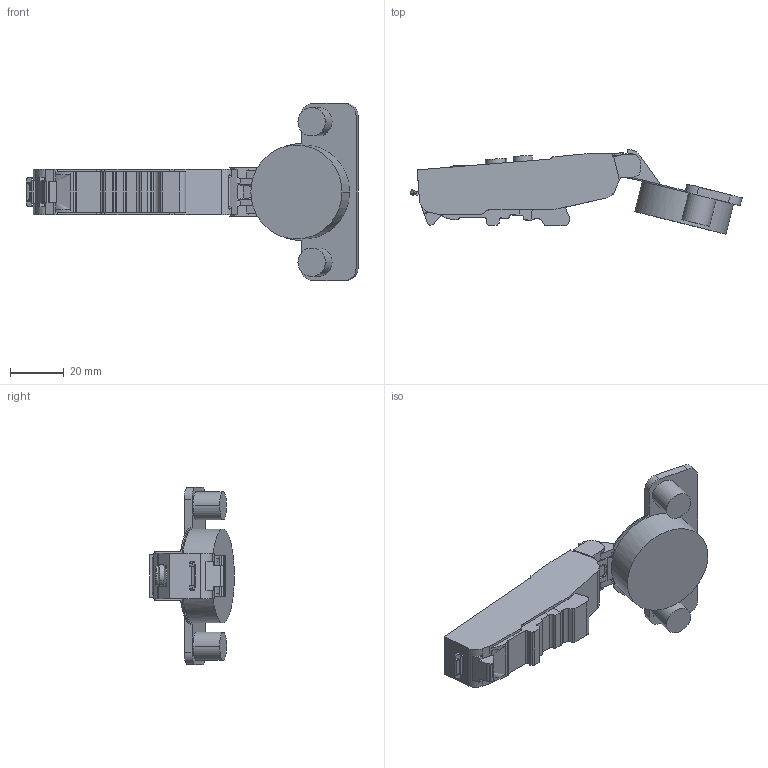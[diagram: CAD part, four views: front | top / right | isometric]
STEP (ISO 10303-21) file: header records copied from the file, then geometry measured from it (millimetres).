
FILE_DESCRIPTION (( 'STEP AP203' ), '1' );
FILE_NAME ('C81B876MFAB DTC 3D OPEN.STEP', '2024-07-18T07:32:04', ( '微软用户' ), ( '微软中国' ), 'SwSTEP 2.0', 'SolidWorks 2021', '' );
FILE_SCHEMA (( 'CONFIG_CONTROL_DESIGN' ));
Length unit declared in the file: millimetre
Products named in the file (1): C81B876MFAB DTC 3D OPEN
Bounding box: 122.99 x 31.32 x 65.6 mm (x, y, z)
Volume: 43655.6 mm3; surface area: 13215.5 mm2
Topology: 1 solids, 1 shells, 316 faces, 916 edges, 606 vertices
Faces by surface type: cylinder 138, plane 135, bspline 19, torus 18, cone 6
Entity records: 11366 total; most frequent: CARTESIAN_POINT 3043, ORIENTED_EDGE 1832, DIRECTION 1658, EDGE_CURVE 916, VERTEX_POINT 606, AXIS2_PLACEMENT_3D 588, VECTOR 482, LINE 482
